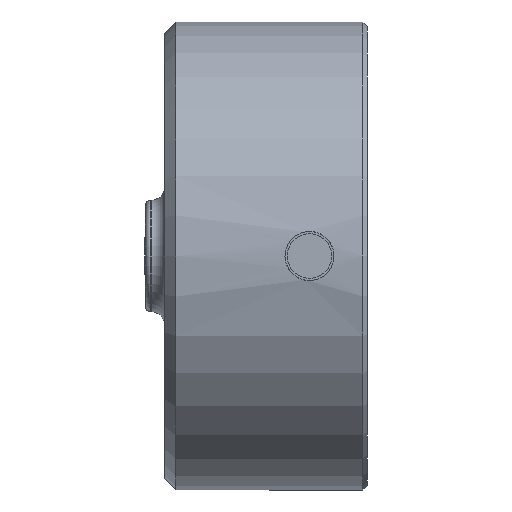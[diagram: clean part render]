
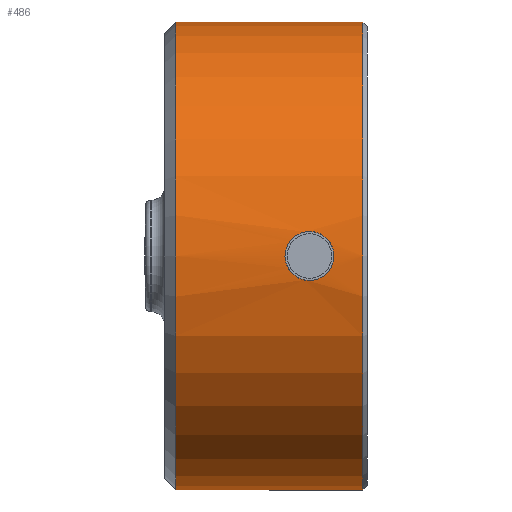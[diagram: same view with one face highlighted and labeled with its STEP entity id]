
A CAD part, left-side view. The second image highlights one B-rep face of the part: STEP entity #486.
In plain terms, the highlighted cylindrical face has radius 10.5 mm (diameter 21 mm), a partial arc.
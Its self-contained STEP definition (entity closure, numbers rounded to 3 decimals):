
#17 = VERTEX_POINT ( 'NONE', #772 ) ;
#18 = LINE ( 'NONE', #273, #368 ) ;
#25 = VERTEX_POINT ( 'NONE', #260 ) ;
#37 = AXIS2_PLACEMENT_3D ( 'NONE', #516, #765, #196 ) ;
#38 = CARTESIAN_POINT ( 'NONE',  ( -10.486, 3.561, 0.554 ) ) ;
#39 = EDGE_CURVE ( 'NONE', #206, #17, #18, .T. ) ;
#44 = CARTESIAN_POINT ( 'NONE',  ( -10.442, 2.455, -1.1 ) ) ;
#49 = CARTESIAN_POINT ( 'NONE',  ( -10.456, 2.047, 0.962 ) ) ;
#56 = FACE_OUTER_BOUND ( 'NONE', #813, .T. ) ;
#94 = CARTESIAN_POINT ( 'NONE',  ( 0., 0.2, 0. ) ) ;
#102 = CARTESIAN_POINT ( 'NONE',  ( -10.456, 3.154, 0.961 ) ) ;
#108 = CARTESIAN_POINT ( 'NONE',  ( -10.442, 2.745, -1.1 ) ) ;
#113 = CARTESIAN_POINT ( 'NONE',  ( -10.486, 1.64, 0.555 ) ) ;
#166 = CARTESIAN_POINT ( 'NONE',  ( -10.442, 2.6, 1.1 ) ) ;
#170 = CARTESIAN_POINT ( 'NONE',  ( -10.464, 3.277, -0.879 ) ) ;
#173 = VERTEX_POINT ( 'NONE', #366 ) ;
#175 = CARTESIAN_POINT ( 'NONE',  ( -10.5, 1.5, -0.145 ) ) ;
#177 = ORIENTED_EDGE ( 'NONE', *, *, #270, .F. ) ;
#196 = DIRECTION ( 'NONE',  ( 0., 0., -1. ) ) ;
#206 = VERTEX_POINT ( 'NONE', #695 ) ;
#223 = LINE ( 'NONE', #485, #346 ) ;
#227 = CARTESIAN_POINT ( 'NONE',  ( -10.497, 3.671, -0.289 ) ) ;
#230 = CARTESIAN_POINT ( 'NONE',  ( -10.479, 1.721, -0.676 ) ) ;
#238 = DIRECTION ( 'NONE',  ( 0., -1., 0. ) ) ;
#260 = CARTESIAN_POINT ( 'NONE',  ( -10.442, 2.6, -1.1 ) ) ;
#269 = EDGE_CURVE ( 'NONE', #173, #388, #223, .T. ) ;
#270 = EDGE_CURVE ( 'NONE', #483, #25, #445, .T. ) ;
#272 = EDGE_CURVE ( 'NONE', #25, #483, #599, .T. ) ;
#273 = CARTESIAN_POINT ( 'NONE',  ( 0., 0., 10.5 ) ) ;
#286 = ORIENTED_EDGE ( 'NONE', *, *, #578, .T. ) ;
#294 = CARTESIAN_POINT ( 'NONE',  ( -10.497, 3.672, 0.287 ) ) ;
#297 = CARTESIAN_POINT ( 'NONE',  ( -10.445, 2.312, -1.071 ) ) ;
#303 = CARTESIAN_POINT ( 'NONE',  ( -10.445, 2.312, 1.071 ) ) ;
#308 = FACE_BOUND ( 'NONE', #382, .T. ) ;
#314 = CIRCLE ( 'NONE', #781, 10.5 ) ;
#330 = ORIENTED_EDGE ( 'NONE', *, *, #39, .F. ) ;
#341 = DIRECTION ( 'NONE',  ( 0., 1., 0. ) ) ;
#346 = VECTOR ( 'NONE', #735, 1000. ) ;
#349 = CARTESIAN_POINT ( 'NONE',  ( -10.464, 3.275, 0.88 ) ) ;
#353 = CARTESIAN_POINT ( 'NONE',  ( -10.442, 2.6, -1.1 ) ) ;
#362 = CARTESIAN_POINT ( 'NONE',  ( -10.479, 1.721, 0.677 ) ) ;
#366 = CARTESIAN_POINT ( 'NONE',  ( 0., 8.6, -10.5 ) ) ;
#368 = VECTOR ( 'NONE', #521, 1000. ) ;
#382 = EDGE_LOOP ( 'NONE', ( #604, #177 ) ) ;
#388 = VERTEX_POINT ( 'NONE', #511 ) ;
#393 = CIRCLE ( 'NONE', #37, 10.5 ) ;
#414 = CARTESIAN_POINT ( 'NONE',  ( -10.442, 2.744, 1.1 ) ) ;
#418 = CARTESIAN_POINT ( 'NONE',  ( -10.456, 3.155, -0.961 ) ) ;
#425 = CARTESIAN_POINT ( 'NONE',  ( -10.5, 1.5, 0.146 ) ) ;
#445 = B_SPLINE_CURVE_WITH_KNOTS ( 'NONE', 3,
 ( #166, #414, #676, #102, #349, #613, #38, #294, #553, #799, #227, #490, #739, #170, #418, #680, #108, #353 ),
 .UNSPECIFIED., .F., .F.,
 ( 4, 2, 2, 2, 2, 2, 2, 2, 4 ),
 ( 0.002, 0.002, 0.003, 0.003, 0.003, 0.004, 0.004, 0.005, 0.005 ),
 .UNSPECIFIED. ) ;
#483 = VERTEX_POINT ( 'NONE', #628 ) ;
#485 = CARTESIAN_POINT ( 'NONE',  ( 0., 0., -10.5 ) ) ;
#486 = ADVANCED_FACE ( 'NONE', ( #56, #308 ), #566, .T. ) ;
#490 = CARTESIAN_POINT ( 'NONE',  ( -10.486, 3.561, -0.554 ) ) ;
#495 = CARTESIAN_POINT ( 'NONE',  ( -10.486, 1.639, -0.554 ) ) ;
#505 = DIRECTION ( 'NONE',  ( 0., 0., -1. ) ) ;
#511 = CARTESIAN_POINT ( 'NONE',  ( 0., 0.2, -10.5 ) ) ;
#516 = CARTESIAN_POINT ( 'NONE',  ( 0., 8.6, 0. ) ) ;
#521 = DIRECTION ( 'NONE',  ( 0., -1., 0. ) ) ;
#553 = CARTESIAN_POINT ( 'NONE',  ( -10.5, 3.7, 0.143 ) ) ;
#557 = CARTESIAN_POINT ( 'NONE',  ( -10.456, 2.045, -0.961 ) ) ;
#561 = CARTESIAN_POINT ( 'NONE',  ( -10.442, 2.456, 1.1 ) ) ;
#566 = CYLINDRICAL_SURFACE ( 'NONE', #681, 10.5 ) ;
#578 = EDGE_CURVE ( 'NONE', #206, #173, #393, .T. ) ;
#586 = ORIENTED_EDGE ( 'NONE', *, *, #808, .T. ) ;
#599 = B_SPLINE_CURVE_WITH_KNOTS ( 'NONE', 3,
 ( #620, #44, #297, #557, #806, #230, #495, #743, #175, #425, #684, #113, #362, #623, #49, #303, #561, #811 ),
 .UNSPECIFIED., .F., .F.,
 ( 4, 2, 2, 2, 2, 2, 2, 2, 4 ),
 ( 0.005, 0.006, 0.006, 0.006, 0.007, 0.007, 0.008, 0.008, 0.009 ),
 .UNSPECIFIED. ) ;
#604 = ORIENTED_EDGE ( 'NONE', *, *, #272, .F. ) ;
#605 = DIRECTION ( 'NONE',  ( 0., 0., -1. ) ) ;
#613 = CARTESIAN_POINT ( 'NONE',  ( -10.479, 3.481, 0.675 ) ) ;
#620 = CARTESIAN_POINT ( 'NONE',  ( -10.442, 2.6, -1.1 ) ) ;
#623 = CARTESIAN_POINT ( 'NONE',  ( -10.464, 1.924, 0.88 ) ) ;
#628 = CARTESIAN_POINT ( 'NONE',  ( -10.442, 2.6, 1.1 ) ) ;
#676 = CARTESIAN_POINT ( 'NONE',  ( -10.445, 2.888, 1.071 ) ) ;
#680 = CARTESIAN_POINT ( 'NONE',  ( -10.445, 2.888, -1.071 ) ) ;
#681 = AXIS2_PLACEMENT_3D ( 'NONE', #817, #238, #505 ) ;
#684 = CARTESIAN_POINT ( 'NONE',  ( -10.497, 1.529, 0.289 ) ) ;
#695 = CARTESIAN_POINT ( 'NONE',  ( 0., 8.6, 10.5 ) ) ;
#735 = DIRECTION ( 'NONE',  ( 0., -1., 0. ) ) ;
#739 = CARTESIAN_POINT ( 'NONE',  ( -10.479, 3.479, -0.676 ) ) ;
#743 = CARTESIAN_POINT ( 'NONE',  ( -10.497, 1.529, -0.289 ) ) ;
#751 = ORIENTED_EDGE ( 'NONE', *, *, #269, .T. ) ;
#765 = DIRECTION ( 'NONE',  ( 0., -1., 0. ) ) ;
#772 = CARTESIAN_POINT ( 'NONE',  ( 0., 0.2, 10.5 ) ) ;
#781 = AXIS2_PLACEMENT_3D ( 'NONE', #94, #341, #605 ) ;
#799 = CARTESIAN_POINT ( 'NONE',  ( -10.5, 3.7, -0.144 ) ) ;
#806 = CARTESIAN_POINT ( 'NONE',  ( -10.464, 1.924, -0.879 ) ) ;
#808 = EDGE_CURVE ( 'NONE', #388, #17, #314, .T. ) ;
#811 = CARTESIAN_POINT ( 'NONE',  ( -10.442, 2.6, 1.1 ) ) ;
#813 = EDGE_LOOP ( 'NONE', ( #330, #286, #751, #586 ) ) ;
#817 = CARTESIAN_POINT ( 'NONE',  ( 0., 0., 0. ) ) ;
